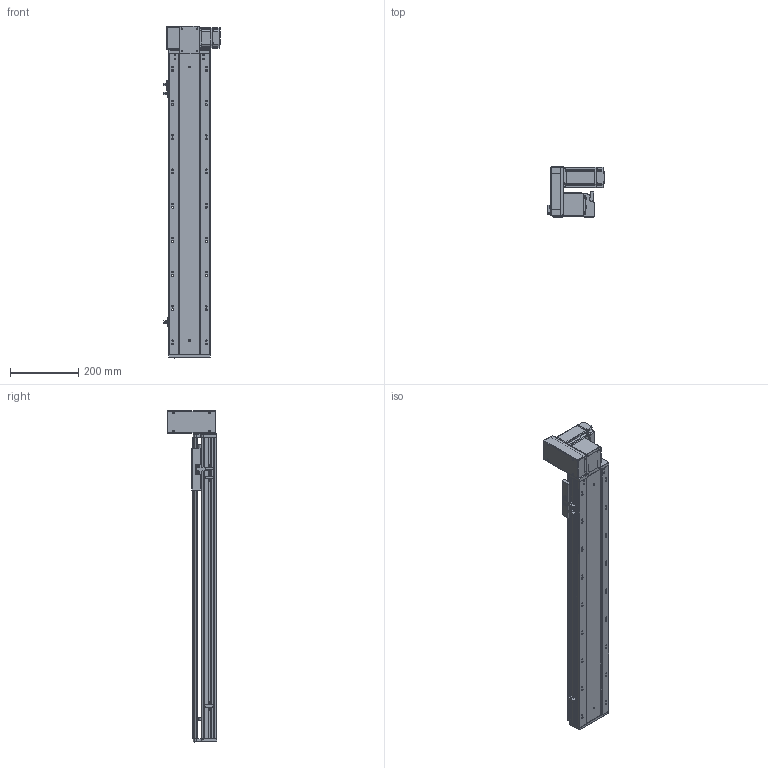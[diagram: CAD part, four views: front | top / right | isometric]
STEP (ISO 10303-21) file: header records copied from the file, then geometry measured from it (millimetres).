
FILE_DESCRIPTION (( 'STEP AP203' ), '1' );
FILE_NAME ('RY120-T-300-UL.SLDASM_650.step', '2021-03-01T05:35:37', ( '盈信电脑' ), ( '东莞市道滘镇水果街19号' ), 'SwSTEP 2.0', 'SolidWorks 2012', '' );
FILE_SCHEMA (( 'CONFIG_CONTROL_DESIGN' ));
Products named in the file (18): RY120-T萇儂欶; RY120-T-300-UL.SLDASM_650; RY120-T翋肮祭謫裔啣; RY120-T蹟翐M4; RY120-T主同步轮轴承压盖; 滅袉蝶18-10; 侂狟400W侜督萇儂; RY120-T萇儂假蚾啣; RY120-T翋肮祭盓傅釱; RY120-T肮祭湍揤踡輸2; 15; RY120外置感应片(140共用）; 覜茼ん672; RY120-T肮祭湍揤踡輸1; RY120綴裔啣; RY120-T-300-UL倰第奻裔啣_650; RY120-T-300-UL倰第菁釱_650; RY120肮祭湍臏賑輸
Assembly tree (23 placements, depth 3):
  RY120-T-300-UL.SLDASM_650
    RY120-T-300-UL倰第菁釱_650
    RY120-T-300-UL倰第奻裔啣_650
    RY120肮祭湍臏賑輸
    RY120綴裔啣
    覜茼ん672  x3
    RY120外置感应片(140共用）
    RY120-T肮祭湍揤踡輸1
    RY120-T肮祭湍揤踡輸2
    RY120-T翋肮祭盓傅釱
    RY120-T萇儂假蚾啣
    侂狟400W侜督萇儂
      15
    RY120-T主同步轮轴承压盖
    滅袉蝶18-10  x2
    RY120-T萇儂欶
    RY120-T蹟翐M4  x4
    RY120-T翋肮祭謫裔啣
Bounding box: 164.2 x 146 x 971 mm (x, y, z)
Volume: 2845553.9 mm3; surface area: 1048095.4 mm2
Topology: 23 solids, 23 shells, 2856 faces, 7828 edges, 5042 vertices
Faces by surface type: plane 1436, cylinder 1100, cone 231, bspline 89
Entity records: 92162 total; most frequent: CARTESIAN_POINT 24006, ORIENTED_EDGE 14128, DIRECTION 13214, EDGE_CURVE 7064, VERTEX_POINT 4629, AXIS2_PLACEMENT_3D 4425, VECTOR 4364, LINE 4364
